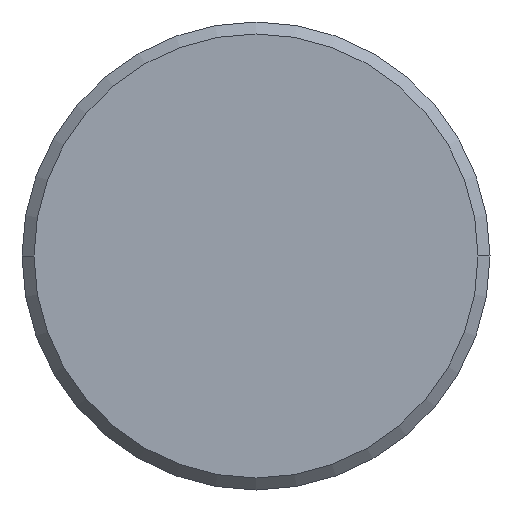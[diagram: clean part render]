
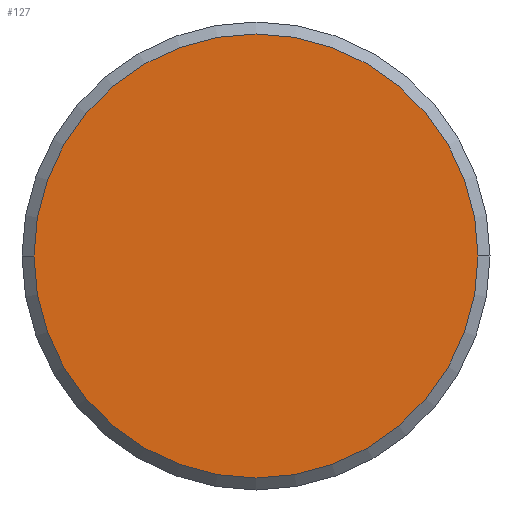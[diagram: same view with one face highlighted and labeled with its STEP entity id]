
A CAD part, left-side view. The second image highlights one B-rep face of the part: STEP entity #127.
In plain terms, the highlighted planar face has unit normal (-1, 0, 0).
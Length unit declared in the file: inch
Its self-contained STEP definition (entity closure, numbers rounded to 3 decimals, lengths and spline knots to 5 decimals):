
#23 = PLANE ( 'NONE',  #27 ) ;
#27 = AXIS2_PLACEMENT_3D ( 'NONE', #218, #91, #141 ) ;
#32 = EDGE_CURVE ( 'NONE', #192, #114, #60, .T. ) ;
#39 = AXIS2_PLACEMENT_3D ( 'NONE', #208, #324, #352 ) ;
#60 = CIRCLE ( 'NONE', #39, 0.07413 ) ;
#69 = AXIS2_PLACEMENT_3D ( 'NONE', #137, #328, #86 ) ;
#86 = DIRECTION ( 'NONE',  ( 0., -1., 0. ) ) ;
#91 = DIRECTION ( 'NONE',  ( -1., 0., 0. ) ) ;
#105 = EDGE_CURVE ( 'NONE', #114, #192, #282, .T. ) ;
#113 = EDGE_LOOP ( 'NONE', ( #277, #354 ) ) ;
#114 = VERTEX_POINT ( 'NONE', #244 ) ;
#127 = ADVANCED_FACE ( 'NONE', ( #164 ), #23, .T. ) ;
#137 = CARTESIAN_POINT ( 'NONE',  ( 0., 0., 0. ) ) ;
#141 = DIRECTION ( 'NONE',  ( 0., -1., 0. ) ) ;
#164 = FACE_OUTER_BOUND ( 'NONE', #113, .T. ) ;
#192 = VERTEX_POINT ( 'NONE', #336 ) ;
#208 = CARTESIAN_POINT ( 'NONE',  ( 0., 0., 0. ) ) ;
#218 = CARTESIAN_POINT ( 'NONE',  ( 0., 0., 0. ) ) ;
#244 = CARTESIAN_POINT ( 'NONE',  ( 0., -0.07413, 0. ) ) ;
#277 = ORIENTED_EDGE ( 'NONE', *, *, #32, .T. ) ;
#282 = CIRCLE ( 'NONE', #69, 0.07413 ) ;
#324 = DIRECTION ( 'NONE',  ( -1., 0., 0. ) ) ;
#328 = DIRECTION ( 'NONE',  ( -1., 0., 0. ) ) ;
#336 = CARTESIAN_POINT ( 'NONE',  ( 0., 0.07413, 0. ) ) ;
#352 = DIRECTION ( 'NONE',  ( 0., -1., 0. ) ) ;
#354 = ORIENTED_EDGE ( 'NONE', *, *, #105, .T. ) ;
